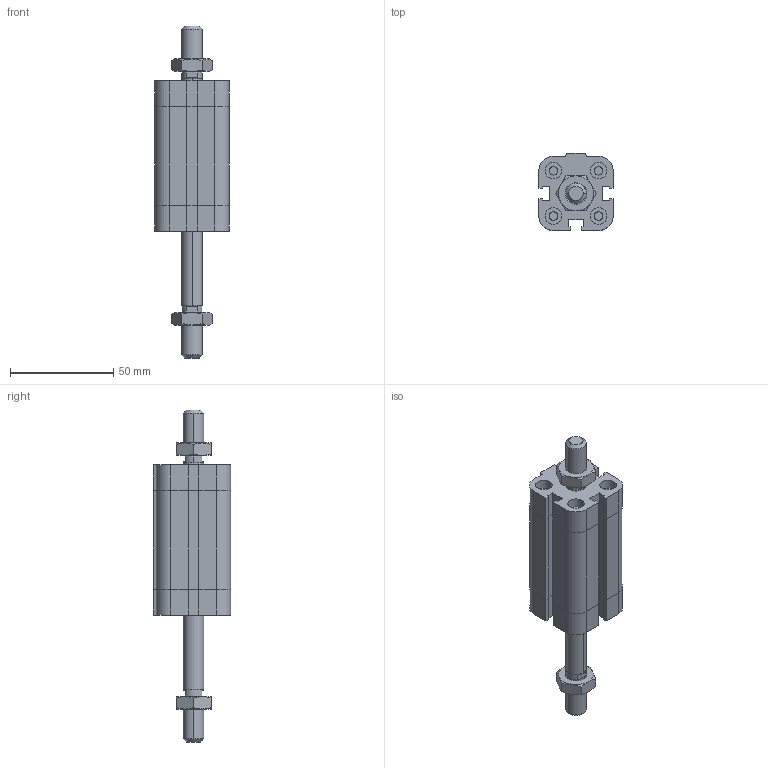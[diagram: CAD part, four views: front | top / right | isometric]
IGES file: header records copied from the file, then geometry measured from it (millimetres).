
Global section: file name: No Iges File Name specified; native system: Autodesk Inventor 2009; preprocessor: AutoDesk Inventor Iges Exporter R2009; author: maffial1; date: 20090420.200846; units: millimetre
Bounding box: 36 x 37.5 x 161 mm (x, y, z)
Volume: 90569.8 mm3; surface area: 26883.3 mm2
Topology: 4 solids, 4 shells, 260 faces, 574 edges, 342 vertices
Faces by surface type: plane 129, bspline 51, cone 38, cylinder 22, revolution 20
